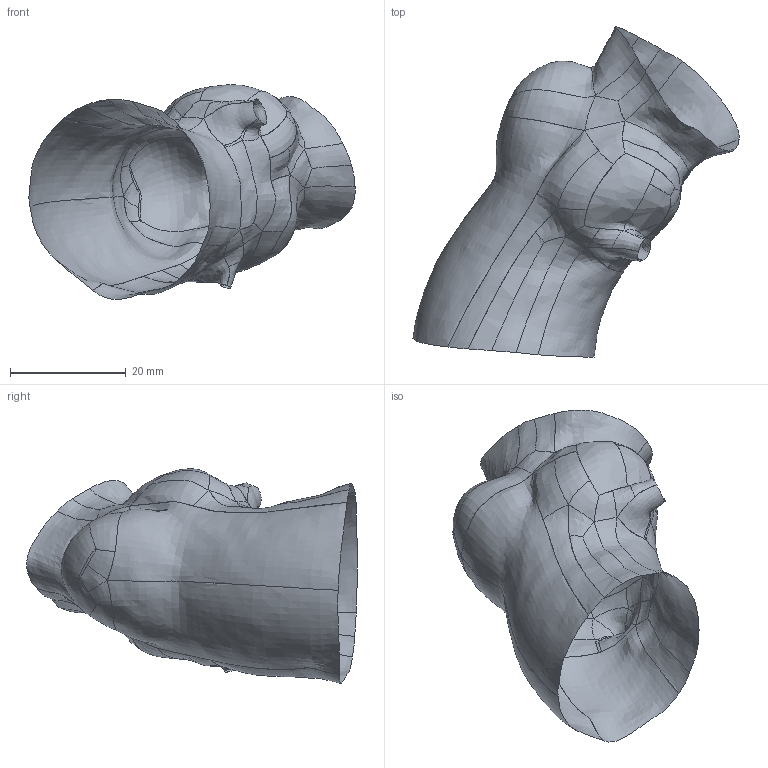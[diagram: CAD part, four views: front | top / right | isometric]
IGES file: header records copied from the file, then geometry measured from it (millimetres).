
Global section: file name: C:\FDA Main\Aorta\stenotic\3395912\3395912.aorta.40%.igs; native system: Rhinoceros ( Mar  9 2011 ); preprocessor: Trout Lake IGES 012 Mar  9 2011; author: Hansgen; organization: UCDenver 3DLab; date: 130305.182310; units: millimetre
Bounding box: 56.28 x 57.05 x 37.06 mm (x, y, z)
Surface area: 5487.2 mm2 (no closed solid volume)
Topology: 0 solids, 0 shells, 79 faces, 316 edges, 316 vertices
Faces by surface type: bspline 79
